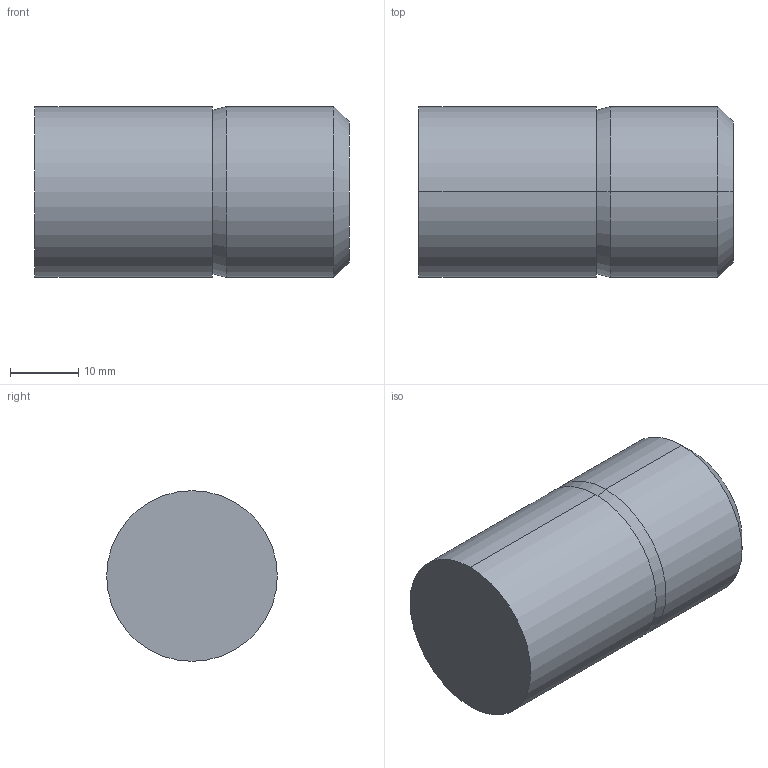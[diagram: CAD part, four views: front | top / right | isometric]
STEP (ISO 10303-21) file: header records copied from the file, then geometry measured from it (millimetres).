
FILE_DESCRIPTION (( 'STEP AP203' ), '1' );
FILE_NAME ('S3-25.STEP', '2002-08-16T10:49:28', ( '.' ), ( '.' ), 'SwSTEP 2.0', 'SolidWorks 2001340', '' );
FILE_SCHEMA (( 'CONFIG_CONTROL_DESIGN' ));
Length unit declared in the file: millimetre
Products named in the file (1): S3-25
Bounding box: 46 x 25 x 25 mm (x, y, z)
Volume: 22351.8 mm3; surface area: 4527.7 mm2
Topology: 1 solids, 1 shells, 11 faces, 20 edges, 12 vertices
Faces by surface type: cone 4, cylinder 4, plane 3
Entity records: 351 total; most frequent: DIRECTION 56, CARTESIAN_POINT 44, ORIENTED_EDGE 40, AXIS2_PLACEMENT_3D 24, EDGE_CURVE 20, CIRCLE 12, VERTEX_POINT 12, EDGE_LOOP 12
